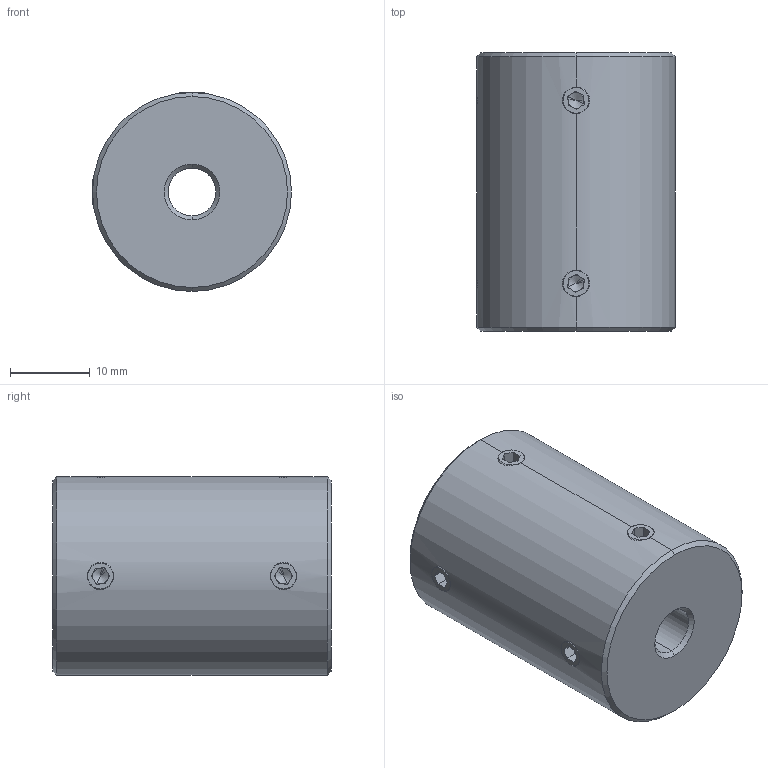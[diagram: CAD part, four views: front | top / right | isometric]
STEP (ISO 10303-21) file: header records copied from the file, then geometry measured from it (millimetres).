
FILE_DESCRIPTION (( 'STEP AP214' ), '1' );
FILE_NAME ('LL-D-D25L35-6-6½¨Ä£.STEP', '2022-07-23T00:35:20', ( '' ), ( '' ), 'SwSTEP 2.0', 'SolidWorks 2022', '' );
FILE_SCHEMA (( 'AUTOMOTIVE_DESIGN' ));
Length unit declared in the file: millimetre
Products named in the file (1): LL-D-D25L35-6-6膘耀
Bounding box: 25 x 35 x 25 mm (x, y, z)
Volume: 15949.1 mm3; surface area: 4580.9 mm2
Topology: 1 solids, 1 shells, 110 faces, 280 edges, 172 vertices
Faces by surface type: plane 58, cone 32, cylinder 20
Entity records: 3630 total; most frequent: CARTESIAN_POINT 987, ORIENTED_EDGE 544, DIRECTION 542, EDGE_CURVE 272, AXIS2_PLACEMENT_3D 199, VERTEX_POINT 172, LINE 144, VECTOR 144
